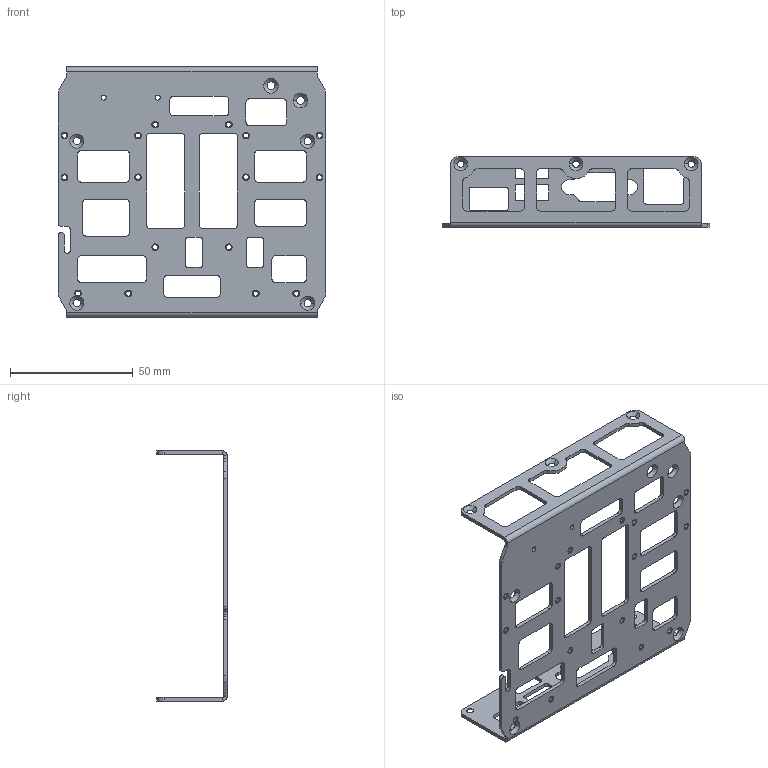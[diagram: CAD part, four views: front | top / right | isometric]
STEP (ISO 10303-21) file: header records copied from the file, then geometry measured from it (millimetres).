
FILE_DESCRIPTION((''),'2;1');
FILE_NAME('PR13_B02_FRM_PCB_MAIN_B','2016-08-12T',('kimdolyang'),(''),'PRO/ENGINEER BY PARAMETRIC TECHNOLOGY CORPORATION, 2013410','PRO/ENGINEER BY PARAMETRIC TECHNOLOGY CORPORATION, 2013410','');
FILE_SCHEMA(('AUTOMOTIVE_DESIGN { 1 0 10303 214 1 1 1 1 }'));
Length unit declared in the file: millimetre
Products named in the file (1): PR13_B02_FRM_PCB_MAIN_B
Bounding box: 109.2 x 28.7 x 102 mm (x, y, z)
Volume: 15808.7 mm3; surface area: 24399.6 mm2
Topology: 1 solids, 1 shells, 366 faces, 1063 edges, 698 vertices
Faces by surface type: cylinder 181, plane 121, cone 64
Entity records: 15825 total; most frequent: DIRECTION 2268, CARTESIAN_POINT 2138, ORIENTED_EDGE 2126, PRESENTATION_STYLE_ASSIGNMENT 1064, STYLED_ITEM 1064, CURVE_STYLE 1063, EDGE_CURVE 1063, AXIS2_PLACEMENT_3D 841
